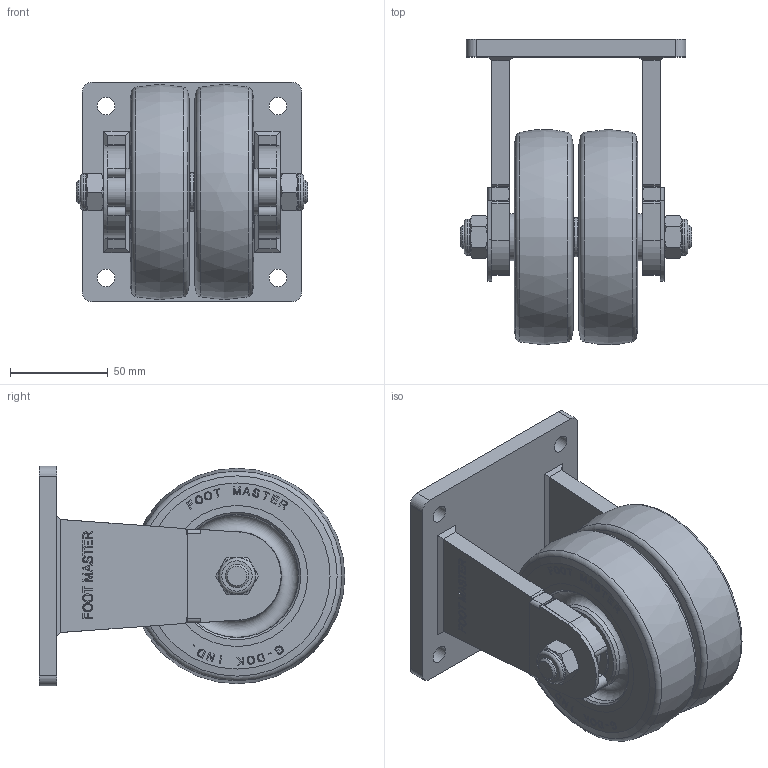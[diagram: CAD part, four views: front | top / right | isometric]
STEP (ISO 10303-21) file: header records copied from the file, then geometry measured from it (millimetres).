
FILE_DESCRIPTION(/* description */ (''),/* implementation_level */ '2;1');
FILE_NAME(/* name */ '\\192.168.10.38\지덕공유\1.기술연구소\1.도면\제품도면\1.양산품\9.1.GXTD-100_110_GXTA-100_GXTS-100\3D\GXTD-110-ARF-HUD_2026.07.27.stp',/* time_stamp */ '2026-07-27T16:01:04+09:00',/* author */ ('전태훈'),/* organization */ (''),/* preprocessor_version */ 'ST-DEVELOPER v18.1',/* originating_system */ 'Autodesk Inventor 2021',/* authorisation */ '');
FILE_SCHEMA (('AUTOMOTIVE_DESIGN { 1 0 10303 214 3 1 1 }'));
Length unit declared in the file: millimetre
Products named in the file (1): GXTD-110-ARF-HUD_2026.07.27_형상단순화
Bounding box: 118 x 156 x 112 mm (x, y, z)
Volume: 734679.2 mm3; surface area: 119388.9 mm2
Topology: 1 solids, 1 shells, 943 faces, 2505 edges, 1666 vertices
Faces by surface type: plane 598, bspline 236, cylinder 51, cone 42, torus 16
Full cylindrical faces by diameter (mm): 9 x4, 12 x2, 15.2 x2, 18.5 x2, 20 x1, 24 x2, 35 x4
Entity records: 31601 total; most frequent: CARTESIAN_POINT 8545, ORIENTED_EDGE 5010, DIRECTION 3681, EDGE_CURVE 2505, LINE 1721, VECTOR 1721, VERTEX_POINT 1666, EDGE_LOOP 1055
